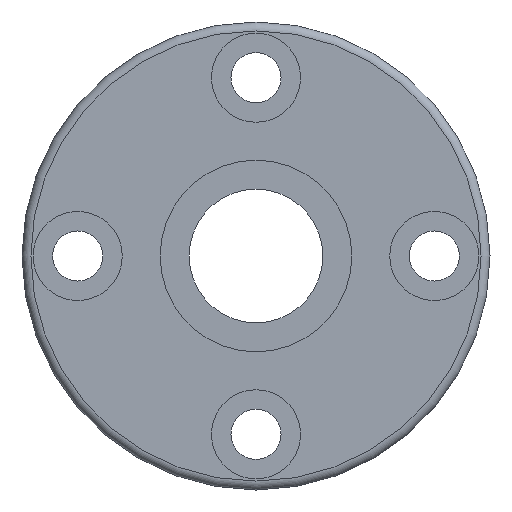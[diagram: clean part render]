
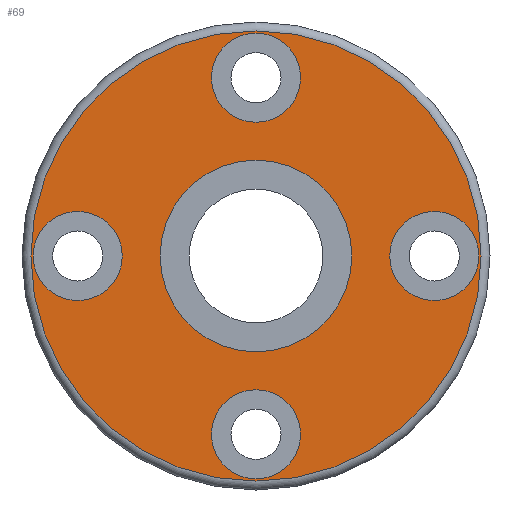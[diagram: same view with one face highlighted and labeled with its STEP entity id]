
A CAD part, left-side view. The second image highlights one B-rep face of the part: STEP entity #69.
In plain terms, the highlighted planar face has unit normal (-1, 0, 0).
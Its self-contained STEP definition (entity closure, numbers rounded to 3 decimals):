
#69 = ADVANCED_FACE( '', ( #162, #163, #164, #165, #166, #167 ), #168, .T. );
#162 = FACE_BOUND( '', #285, .T. );
#163 = FACE_BOUND( '', #286, .T. );
#164 = FACE_BOUND( '', #287, .T. );
#165 = FACE_BOUND( '', #288, .T. );
#166 = FACE_BOUND( '', #289, .T. );
#167 = FACE_OUTER_BOUND( '', #290, .T. );
#168 = PLANE( '', #291 );
#285 = EDGE_LOOP( '', ( #420 ) );
#286 = EDGE_LOOP( '', ( #421 ) );
#287 = EDGE_LOOP( '', ( #422 ) );
#288 = EDGE_LOOP( '', ( #423 ) );
#289 = EDGE_LOOP( '', ( #424 ) );
#290 = EDGE_LOOP( '', ( #425 ) );
#291 = AXIS2_PLACEMENT_3D( '', #426, #427, #428 );
#420 = ORIENTED_EDGE( '', *, *, #559, .T. );
#421 = ORIENTED_EDGE( '', *, *, #560, .T. );
#422 = ORIENTED_EDGE( '', *, *, #561, .T. );
#423 = ORIENTED_EDGE( '', *, *, #562, .T. );
#424 = ORIENTED_EDGE( '', *, *, #563, .F. );
#425 = ORIENTED_EDGE( '', *, *, #556, .T. );
#426 = CARTESIAN_POINT( '', ( 0., 14.7, 0. ) );
#427 = DIRECTION( '', ( -1., 0., 0. ) );
#428 = DIRECTION( '', ( 0., 1., 0. ) );
#556 = EDGE_CURVE( '', #630, #630, #631, .T. );
#559 = EDGE_CURVE( '', #635, #635, #636, .T. );
#560 = EDGE_CURVE( '', #637, #637, #638, .T. );
#561 = EDGE_CURVE( '', #639, #639, #640, .T. );
#562 = EDGE_CURVE( '', #641, #641, #642, .T. );
#563 = EDGE_CURVE( '', #643, #643, #644, .T. );
#630 = VERTEX_POINT( '', #719 );
#631 = CIRCLE( '', #720, 20.2 );
#635 = VERTEX_POINT( '', #724 );
#636 = CIRCLE( '', #725, 4. );
#637 = VERTEX_POINT( '', #726 );
#638 = CIRCLE( '', #727, 4. );
#639 = VERTEX_POINT( '', #728 );
#640 = CIRCLE( '', #729, 4. );
#641 = VERTEX_POINT( '', #730 );
#642 = CIRCLE( '', #731, 4. );
#643 = VERTEX_POINT( '', #732 );
#644 = CIRCLE( '', #733, 8.6 );
#719 = CARTESIAN_POINT( '', ( 0., 20.2, 0. ) );
#720 = AXIS2_PLACEMENT_3D( '', #815, #816, #817 );
#724 = CARTESIAN_POINT( '', ( 0., 0., -20. ) );
#725 = AXIS2_PLACEMENT_3D( '', #821, #822, #823 );
#726 = CARTESIAN_POINT( '', ( 0., 0., 20. ) );
#727 = AXIS2_PLACEMENT_3D( '', #824, #825, #826 );
#728 = CARTESIAN_POINT( '', ( 0., 20., 0. ) );
#729 = AXIS2_PLACEMENT_3D( '', #827, #828, #829 );
#730 = CARTESIAN_POINT( '', ( 0., -20., 0. ) );
#731 = AXIS2_PLACEMENT_3D( '', #830, #831, #832 );
#732 = CARTESIAN_POINT( '', ( 0., 8.6, 0. ) );
#733 = AXIS2_PLACEMENT_3D( '', #833, #834, #835 );
#815 = CARTESIAN_POINT( '', ( 0., 0., 0. ) );
#816 = DIRECTION( '', ( -1., 0., 0. ) );
#817 = DIRECTION( '', ( 0., 0., 1. ) );
#821 = CARTESIAN_POINT( '', ( 0., 0., -16. ) );
#822 = DIRECTION( '', ( 1., 0., 0. ) );
#823 = DIRECTION( '', ( 0., 0., -1. ) );
#824 = CARTESIAN_POINT( '', ( 0., 0., 16. ) );
#825 = DIRECTION( '', ( 1., 0., 0. ) );
#826 = DIRECTION( '', ( 0., 0., 1. ) );
#827 = CARTESIAN_POINT( '', ( 0., 16., 0. ) );
#828 = DIRECTION( '', ( 1., 0., 0. ) );
#829 = DIRECTION( '', ( 0., 1., 0. ) );
#830 = CARTESIAN_POINT( '', ( 0., -16., 0. ) );
#831 = DIRECTION( '', ( 1., 0., 0. ) );
#832 = DIRECTION( '', ( 0., -1., 0. ) );
#833 = CARTESIAN_POINT( '', ( 0., 0., 0. ) );
#834 = DIRECTION( '', ( -1., 0., 0. ) );
#835 = DIRECTION( '', ( 0., 1., 0. ) );
